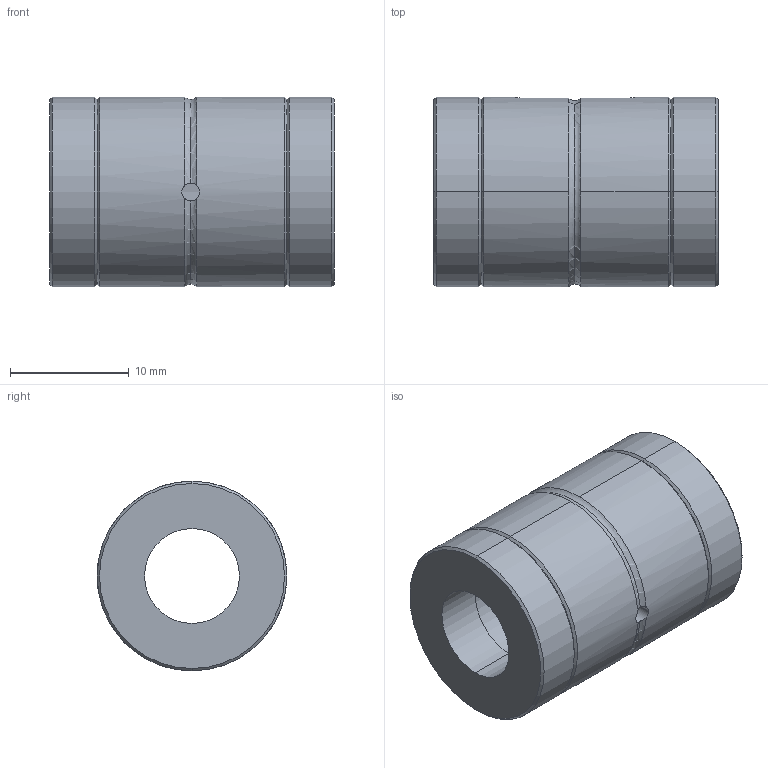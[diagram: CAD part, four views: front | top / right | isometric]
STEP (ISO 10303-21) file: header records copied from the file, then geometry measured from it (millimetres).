
FILE_DESCRIPTION (( 'STEP AP203' ), '1' );
FILE_NAME ('KLT008T3.STEP', '2023-08-11T07:24:47', ( 'Microsoft' ), ( 'Microsoft' ), 'SwSTEP 2.0', 'SolidWorks 2022', '' );
FILE_SCHEMA (( 'CONFIG_CONTROL_DESIGN' ));
Length unit declared in the file: millimetre
Products named in the file (4): 零件6^KLT008T3; 零件7^KLT008T3; 零件4^KLT008T3; KLT008T3
Assembly tree (3 placements, depth 2):
  KLT008T3
    零件4^KLT008T3
    零件6^KLT008T3
    零件7^KLT008T3
Bounding box: 24 x 16 x 16 mm (x, y, z)
Volume: 3570.4 mm3; surface area: 2724.3 mm2
Topology: 3 solids, 3 shells, 45 faces, 105 edges, 65 vertices
Faces by surface type: cylinder 18, cone 12, plane 9, torus 6
Entity records: 1808 total; most frequent: CARTESIAN_POINT 341, DIRECTION 242, ORIENTED_EDGE 210, EDGE_CURVE 105, AXIS2_PLACEMENT_3D 102, VERTEX_POINT 65, EDGE_LOOP 52, CIRCLE 51
